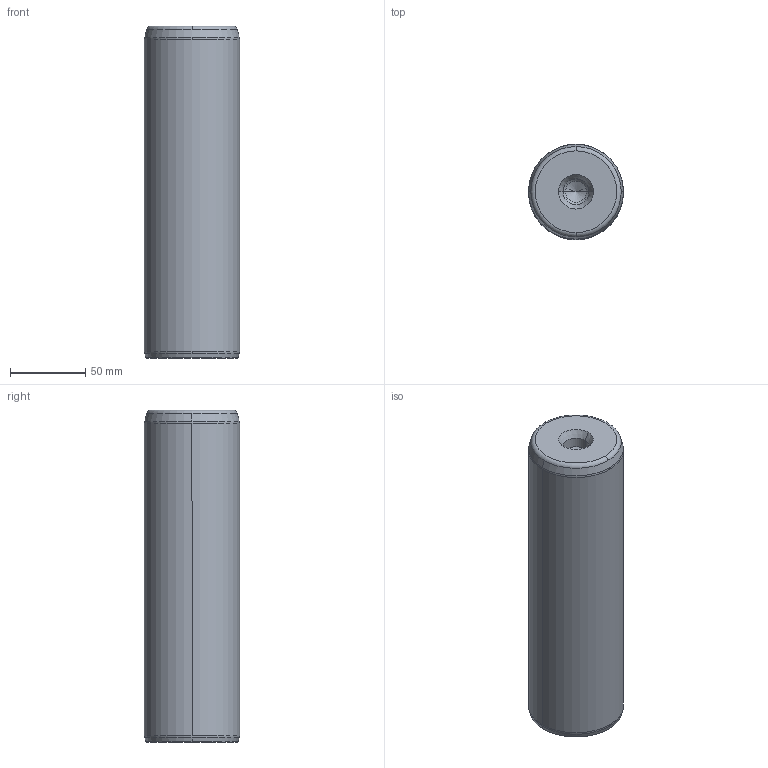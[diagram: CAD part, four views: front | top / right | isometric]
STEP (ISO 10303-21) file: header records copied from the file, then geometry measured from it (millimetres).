
FILE_DESCRIPTION((''),'2;1');
FILE_NAME('P10_063_220.stp','2008-12-23T16:16:16',(''),(''),'Mechanical Desktop 2009','Mechanical Desktop 2009',', , ');
FILE_SCHEMA(('CONFIG_CONTROL_DESIGN'));
Length unit declared in the file: millimetre
Products named in the file (5): Product; ProductAA; blmdl1; ProductA; blmdl1A
Assembly tree (2 placements, depth 3):
  Product
    ProductAA
      blmdl1
  ProductA
  blmdl1A
Bounding box: 63 x 63 x 220 mm (x, y, z)
Volume: 675090.1 mm3; surface area: 51045.9 mm2
Topology: 1 solids, 1 shells, 26 faces, 66 edges, 41 vertices
Faces by surface type: cone 10, torus 8, cylinder 6, plane 2
Entity records: 1012 total; most frequent: DIRECTION 170, CARTESIAN_POINT 134, ORIENTED_EDGE 128, AXIS2_PLACEMENT_3D 77, EDGE_CURVE 64, CIRCLE 48, VERTEX_POINT 41, EDGE_LOOP 27
